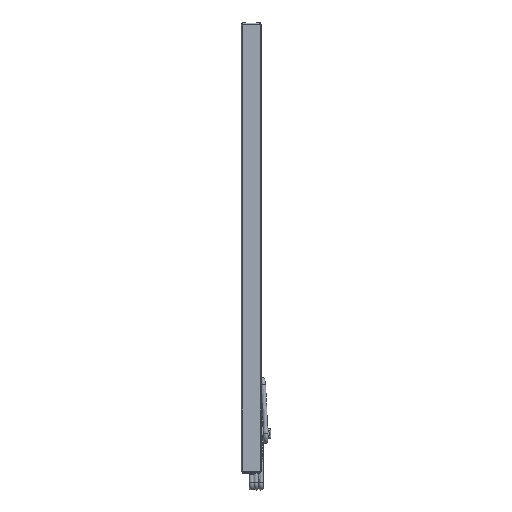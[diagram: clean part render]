
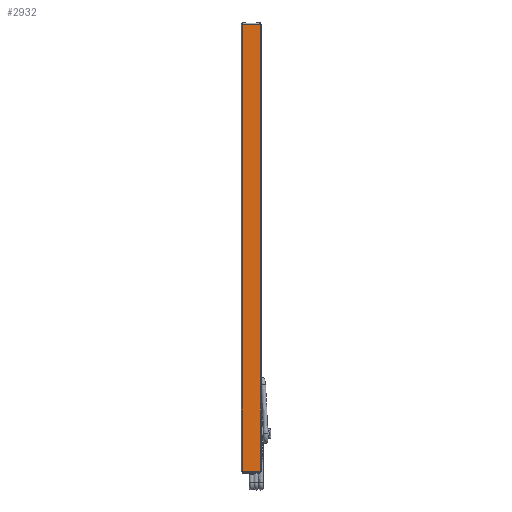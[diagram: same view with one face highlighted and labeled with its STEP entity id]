
A CAD part, front view. The second image highlights one B-rep face of the part: STEP entity #2932.
In plain terms, the highlighted planar face has unit normal (0, -1, 0).
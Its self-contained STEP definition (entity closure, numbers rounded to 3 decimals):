
#2654=CARTESIAN_POINT('',(18.421,0.,914.4));
#2655=VERTEX_POINT('',#2654);
#2663=CARTESIAN_POINT('',(18.421,0.,0.0));
#2664=VERTEX_POINT('',#2663);
#2665=CARTESIAN_POINT('',(18.421,0.0,914.4));
#2666=DIRECTION('',(0.0,0.0,-1.0));
#2667=VECTOR('',#2666,914.4);
#2668=LINE('',#2665,#2667);
#2669=EDGE_CURVE('',#2655,#2664,#2668,.T.);
#2695=CARTESIAN_POINT('',(-18.421,0.,0.0));
#2696=VERTEX_POINT('',#2695);
#2697=CARTESIAN_POINT('',(-18.421,0.,0.0));
#2698=DIRECTION('',(1.0,0.0,0.0));
#2699=VECTOR('',#2698,36.842);
#2700=LINE('',#2697,#2699);
#2701=EDGE_CURVE('',#2696,#2664,#2700,.T.);
#2909=CARTESIAN_POINT('',(18.735,0.0,0.0));
#2910=DIRECTION('',(0.0,-1.0,0.0));
#2911=DIRECTION('',(0.0,0.0,-1.0));
#2912=AXIS2_PLACEMENT_3D('',#2909,#2910,#2911);
#2913=PLANE('',#2912);
#2914=ORIENTED_EDGE('',*,*,#2669,.F.);
#2915=CARTESIAN_POINT('',(-18.421,0.,914.4));
#2916=VERTEX_POINT('',#2915);
#2917=CARTESIAN_POINT('',(18.421,0.,914.4));
#2918=DIRECTION('',(-1.0,0.0,0.0));
#2919=VECTOR('',#2918,36.842);
#2920=LINE('',#2917,#2919);
#2921=EDGE_CURVE('',#2655,#2916,#2920,.T.);
#2922=ORIENTED_EDGE('',*,*,#2921,.T.);
#2923=CARTESIAN_POINT('',(-18.421,0.0,0.0));
#2924=DIRECTION('',(0.0,0.0,1.0));
#2925=VECTOR('',#2924,914.4);
#2926=LINE('',#2923,#2925);
#2927=EDGE_CURVE('',#2696,#2916,#2926,.T.);
#2928=ORIENTED_EDGE('',*,*,#2927,.F.);
#2929=ORIENTED_EDGE('',*,*,#2701,.T.);
#2930=EDGE_LOOP('',(#2914,#2922,#2928,#2929));
#2931=FACE_OUTER_BOUND('',#2930,.T.);
#2932=ADVANCED_FACE('',(#2931),#2913,.T.);
